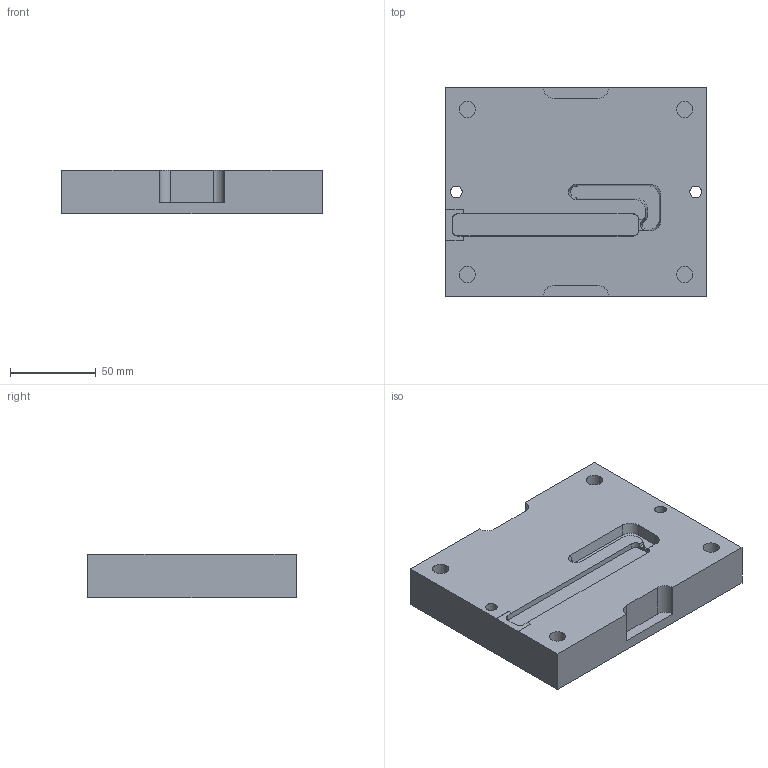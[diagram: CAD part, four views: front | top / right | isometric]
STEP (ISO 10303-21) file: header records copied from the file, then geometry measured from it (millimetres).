
FILE_DESCRIPTION(/* description */ (''),/* implementation_level */ '2;1');
FILE_NAME(/* name */ 'C:/Users/burak/Desktop/ASTM_790_CORE v6.step',/* time_stamp */ '2019-01-17T11:27:49-05:00',/* author */ ('burakGXH3L'),/* organization */ (''),/* preprocessor_version */ 'ST-DEVELOPER v17.2',/* originating_system */ 'Autodesk Translation Framework v7.6.0.251',/* authorisation */ '');
FILE_SCHEMA (('AUTOMOTIVE_DESIGN { 1 0 10303 214 3 1 1 }'));
Length unit declared in the file: inch
Products named in the file (1): ASTM_790_CORE
Bounding box: 152.4 x 121.92 x 25.4 mm (x, y, z)
Volume: 446897.8 mm3; surface area: 56590.8 mm2
Topology: 1 solids, 1 shells, 57 faces, 159 edges, 108 vertices
Faces by surface type: plane 36, cylinder 20, cone 1
Full cylindrical faces by diameter (mm): 6.858 x2, 9.525 x4
Entity records: 1899 total; most frequent: DIRECTION 330, CARTESIAN_POINT 329, ORIENTED_EDGE 318, EDGE_CURVE 159, AXIS2_PLACEMENT_3D 115, VERTEX_POINT 108, LINE 100, VECTOR 100
